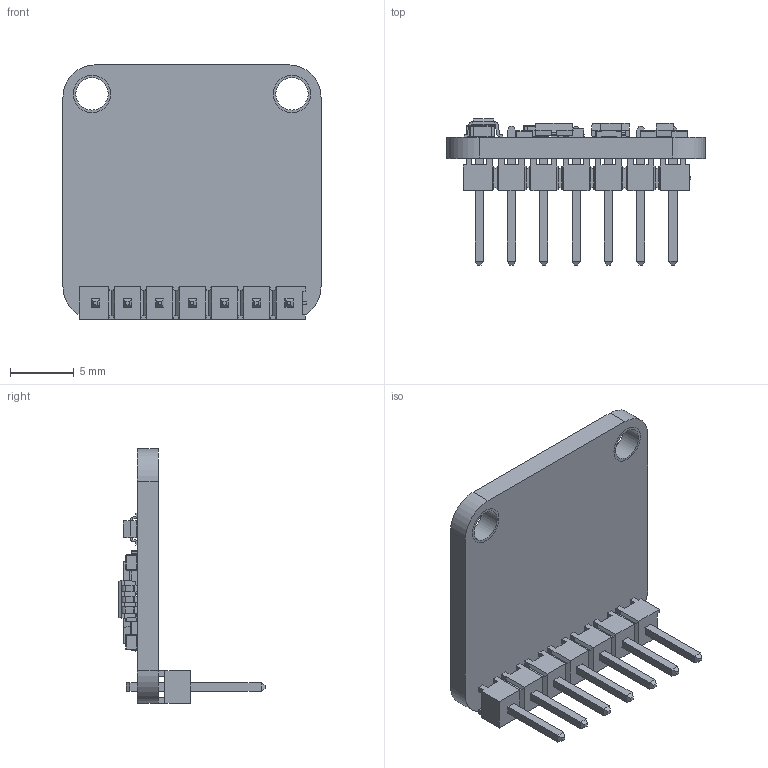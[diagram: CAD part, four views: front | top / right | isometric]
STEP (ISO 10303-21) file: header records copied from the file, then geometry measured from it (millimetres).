
FILE_DESCRIPTION (( 'STEP AP203' ), '1' );
FILE_NAME ('v4v3v2TCS34725 RGB sensor.STEP', '2026-08-19T20:49:52', ( '' ), ( '' ), 'SwSTEP 2.0', 'SolidWorks 2024', '' );
FILE_SCHEMA (( 'CONFIG_CONTROL_DESIGN' ));
Length unit declared in the file: millimetre
Products named in the file (1): v4v3v2TCS34725 RGB sensor
Bounding box: 20.3 x 11.48 x 20 mm (x, y, z)
Volume: 791.3 mm3; surface area: 1643.5 mm2
Topology: 34 solids, 34 shells, 1277 faces, 3210 edges, 2060 vertices
Faces by surface type: plane 861, bspline 282, cylinder 134
Full cylindrical faces by diameter (mm): 1.016 x7, 2.54 x2
Entity records: 54550 total; most frequent: CARTESIAN_POINT 25709, ORIENTED_EDGE 6354, DIRECTION 4939, EDGE_CURVE 3177, LINE 2375, VECTOR 2375, VERTEX_POINT 2060, EDGE_LOOP 1401
